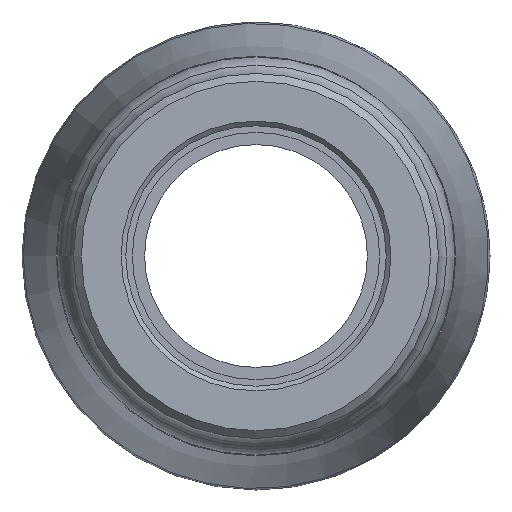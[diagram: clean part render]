
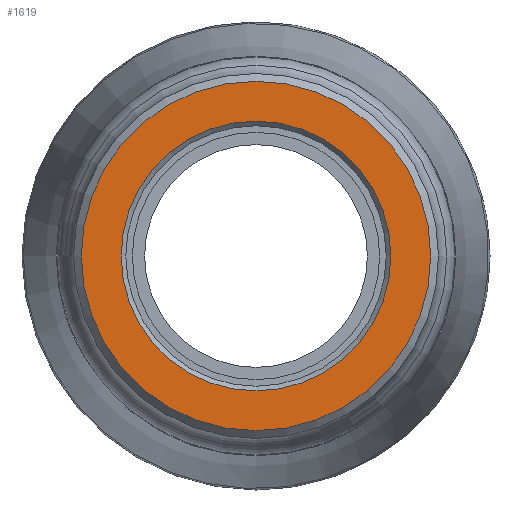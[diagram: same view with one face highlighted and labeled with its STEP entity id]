
A CAD part, left-side view. The second image highlights one B-rep face of the part: STEP entity #1619.
In plain terms, the highlighted planar face has unit normal (-1, 0, 0).
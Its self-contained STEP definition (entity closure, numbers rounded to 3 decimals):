
#29=FACE_BOUND('',#401,.T.);
#212=PLANE('',#1776);
#290=FACE_OUTER_BOUND('',#400,.T.);
#400=EDGE_LOOP('',(#1219));
#401=EDGE_LOOP('',(#1220));
#542=CIRCLE('',#1775,20.176);
#543=CIRCLE('',#1777,26.131);
#728=VERTEX_POINT('',#2882);
#729=VERTEX_POINT('',#2885);
#910=EDGE_CURVE('',#728,#728,#542,.T.);
#911=EDGE_CURVE('',#729,#729,#543,.T.);
#1219=ORIENTED_EDGE('',*,*,#911,.F.);
#1220=ORIENTED_EDGE('',*,*,#910,.F.);
#1619=ADVANCED_FACE('',(#290,#29),#212,.T.);
#1775=AXIS2_PLACEMENT_3D('',#2883,#2067,#2068);
#1776=AXIS2_PLACEMENT_3D('',#2884,#2069,#2070);
#1777=AXIS2_PLACEMENT_3D('',#2886,#2071,#2072);
#2067=DIRECTION('center_axis',(-1.,0.,0.));
#2068=DIRECTION('ref_axis',(0.,-1.,0.));
#2069=DIRECTION('center_axis',(-1.,0.,0.));
#2070=DIRECTION('ref_axis',(0.,0.,1.));
#2071=DIRECTION('center_axis',(1.,0.,0.));
#2072=DIRECTION('ref_axis',(0.,-1.,0.));
#2882=CARTESIAN_POINT('',(0.,20.176,0.));
#2883=CARTESIAN_POINT('Origin',(0.,0.,0.));
#2884=CARTESIAN_POINT('Origin',(0.,27.3,0.));
#2885=CARTESIAN_POINT('',(0.,26.131,0.));
#2886=CARTESIAN_POINT('Origin',(0.,0.,0.));
